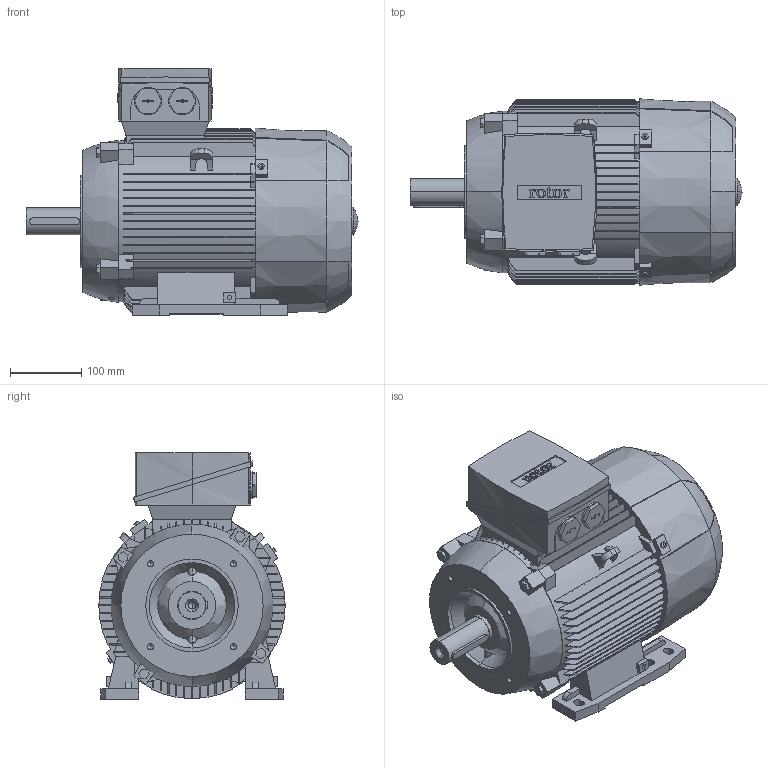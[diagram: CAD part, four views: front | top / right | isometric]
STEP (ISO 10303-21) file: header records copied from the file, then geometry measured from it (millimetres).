
FILE_DESCRIPTION (( 'STEP AP214' ), '1' );
FILE_NAME ('6RN132M08E10 IM2641.STEP', '2016-12-30T09:25:00', ( 'rbc_ict' ), ( 'Microsoft' ), 'SwSTEP 2.0', 'SolidWorks 2015', '' );
FILE_SCHEMA (( 'AUTOMOTIVE_DESIGN' ));
Length unit declared in the file: millimetre
Products named in the file (1): 6RN132M08E10 IM2641
Bounding box: 466.5 x 262 x 346.5 mm (x, y, z)
Volume: 19308092.5 mm3; surface area: 819850.9 mm2
Topology: 1 solids, 1 shells, 919 faces, 2585 edges, 1700 vertices
Faces by surface type: plane 542, cylinder 177, bspline 168, cone 32
Entity records: 44003 total; most frequent: CARTESIAN_POINT 12601, ORIENTED_EDGE 5146, DIRECTION 3891, EDGE_CURVE 2573, VERTEX_POINT 1700, LINE 1511, VECTOR 1511, AXIS2_PLACEMENT_3D 1190
